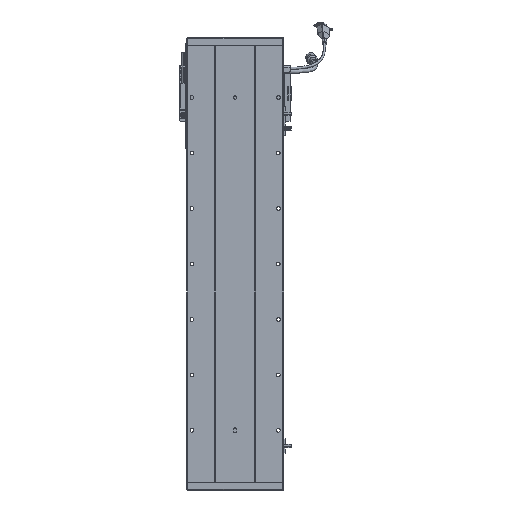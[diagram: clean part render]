
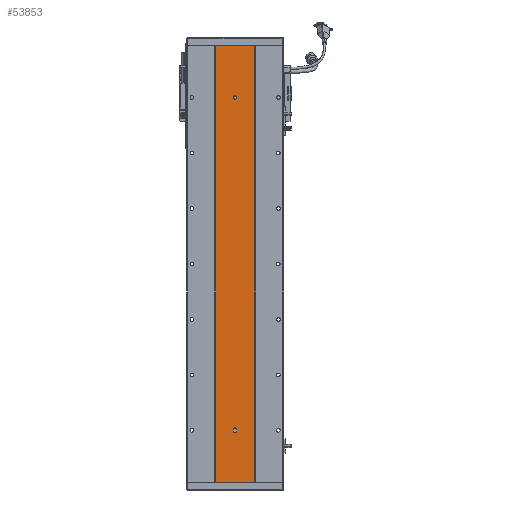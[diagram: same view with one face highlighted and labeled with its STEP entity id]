
A CAD part, front view. The second image highlights one B-rep face of the part: STEP entity #53853.
In plain terms, the highlighted planar face has unit normal (0, -1, 0).
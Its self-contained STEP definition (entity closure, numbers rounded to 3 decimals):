
#621 = CIRCLE ( 'NONE', #70150, 3. ) ;
#1636 = EDGE_CURVE ( 'NONE', #12075, #33227, #8228, .T. ) ;
#2611 = PLANE ( 'NONE',  #49271 ) ;
#3585 = DIRECTION ( 'NONE',  ( 0., 0., -1. ) ) ;
#3679 = CARTESIAN_POINT ( 'NONE',  ( 3244.748, 1415.701, 787. ) ) ;
#4581 = LINE ( 'NONE', #3679, #14912 ) ;
#6071 = EDGE_CURVE ( 'NONE', #12944, #45665, #56638, .T. ) ;
#6522 = AXIS2_PLACEMENT_3D ( 'NONE', #11002, #52563, #28372 ) ;
#7497 = EDGE_CURVE ( 'NONE', #40980, #42764, #54549, .T. ) ;
#7895 = DIRECTION ( 'NONE',  ( 0., 0., -1. ) ) ;
#8228 = CIRCLE ( 'NONE', #42916, 3. ) ;
#8736 = ORIENTED_EDGE ( 'NONE', *, *, #55076, .F. ) ;
#9618 = EDGE_CURVE ( 'NONE', #74258, #40980, #4581, .T. ) ;
#10355 = EDGE_LOOP ( 'NONE', ( #8736, #26741, #26076, #75006, #50370 ) ) ;
#11002 = CARTESIAN_POINT ( 'NONE',  ( 3280.529, 1415.701, 693.5 ) ) ;
#12075 = VERTEX_POINT ( 'NONE', #57866 ) ;
#12944 = VERTEX_POINT ( 'NONE', #50845 ) ;
#13496 = DIRECTION ( 'NONE',  ( 0., 0., 1. ) ) ;
#14912 = VECTOR ( 'NONE', #21796, 1000. ) ;
#14963 = FACE_OUTER_BOUND ( 'NONE', #45242, .T. ) ;
#18926 = VECTOR ( 'NONE', #13496, 1000. ) ;
#19307 = DIRECTION ( 'NONE',  ( 0., -1., 0. ) ) ;
#19538 = VERTEX_POINT ( 'NONE', #72007 ) ;
#19725 = DIRECTION ( 'NONE',  ( 0., 0., -1. ) ) ;
#20377 = AXIS2_PLACEMENT_3D ( 'NONE', #33283, #75515, #3585 ) ;
#20721 = DIRECTION ( 'NONE',  ( 0., 1., 0. ) ) ;
#21796 = DIRECTION ( 'NONE',  ( 0., 0., -1. ) ) ;
#22945 = EDGE_CURVE ( 'NONE', #54370, #42764, #34763, .T. ) ;
#24254 = EDGE_CURVE ( 'NONE', #19538, #12944, #26208, .T. ) ;
#26076 = ORIENTED_EDGE ( 'NONE', *, *, #77498, .F. ) ;
#26208 = CIRCLE ( 'NONE', #20377, 3. ) ;
#26741 = ORIENTED_EDGE ( 'NONE', *, *, #30934, .F. ) ;
#27173 = EDGE_CURVE ( 'NONE', #74258, #54370, #54887, .T. ) ;
#27222 = ORIENTED_EDGE ( 'NONE', *, *, #27173, .F. ) ;
#27765 = CARTESIAN_POINT ( 'NONE',  ( 3277.529, 1415.701, 95. ) ) ;
#28372 = DIRECTION ( 'NONE',  ( 0., 0., -1. ) ) ;
#28504 = CARTESIAN_POINT ( 'NONE',  ( 3277.529, 1415.701, 92. ) ) ;
#29345 = VECTOR ( 'NONE', #48426, 1000. ) ;
#29753 = CARTESIAN_POINT ( 'NONE',  ( 3244.748, 1415.701, 787. ) ) ;
#29947 = FACE_BOUND ( 'NONE', #10355, .T. ) ;
#29978 = EDGE_CURVE ( 'NONE', #33227, #12075, #40766, .T. ) ;
#30124 = VECTOR ( 'NONE', #37100, 1000. ) ;
#30460 = ORIENTED_EDGE ( 'NONE', *, *, #9618, .T. ) ;
#30934 = EDGE_CURVE ( 'NONE', #59693, #73174, #45357, .T. ) ;
#30943 = FACE_BOUND ( 'NONE', #62925, .T. ) ;
#31692 = CARTESIAN_POINT ( 'NONE',  ( 3244.748, 1415.701, 0. ) ) ;
#32228 = CARTESIAN_POINT ( 'NONE',  ( 3316.311, 1415.701, 0. ) ) ;
#32561 = ORIENTED_EDGE ( 'NONE', *, *, #22945, .F. ) ;
#33227 = VERTEX_POINT ( 'NONE', #77252 ) ;
#33250 = VECTOR ( 'NONE', #70943, 1000. ) ;
#33283 = CARTESIAN_POINT ( 'NONE',  ( 3280.529, 1415.701, 92. ) ) ;
#34347 = CARTESIAN_POINT ( 'NONE',  ( 3283.529, 1415.701, 95. ) ) ;
#34763 = LINE ( 'NONE', #37349, #30124 ) ;
#37100 = DIRECTION ( 'NONE',  ( 0., 0., -1. ) ) ;
#37349 = CARTESIAN_POINT ( 'NONE',  ( 3316.311, 1415.701, 787. ) ) ;
#37960 = DIRECTION ( 'NONE',  ( 0., 0., -1. ) ) ;
#38806 = CARTESIAN_POINT ( 'NONE',  ( 3244.748, 1415.701, 787. ) ) ;
#39184 = ORIENTED_EDGE ( 'NONE', *, *, #1636, .F. ) ;
#40766 = CIRCLE ( 'NONE', #6522, 3. ) ;
#40980 = VERTEX_POINT ( 'NONE', #31692 ) ;
#41382 = ORIENTED_EDGE ( 'NONE', *, *, #29978, .F. ) ;
#42764 = VERTEX_POINT ( 'NONE', #32228 ) ;
#42916 = AXIS2_PLACEMENT_3D ( 'NONE', #49707, #49979, #19725 ) ;
#44409 = CARTESIAN_POINT ( 'NONE',  ( 3244.748, 1415.701, 787. ) ) ;
#44997 = CARTESIAN_POINT ( 'NONE',  ( 3244.748, 1415.701, 0. ) ) ;
#45242 = EDGE_LOOP ( 'NONE', ( #59376, #32561, #27222, #30460 ) ) ;
#45357 = LINE ( 'NONE', #72770, #29345 ) ;
#45665 = VERTEX_POINT ( 'NONE', #34347 ) ;
#47930 = CARTESIAN_POINT ( 'NONE',  ( 3283.529, 1415.701, 95. ) ) ;
#48426 = DIRECTION ( 'NONE',  ( 0., 0., -1. ) ) ;
#48599 = CARTESIAN_POINT ( 'NONE',  ( 3316.311, 1415.701, 787. ) ) ;
#49271 = AXIS2_PLACEMENT_3D ( 'NONE', #38806, #20721, #62874 ) ;
#49707 = CARTESIAN_POINT ( 'NONE',  ( 3280.529, 1415.701, 693.5 ) ) ;
#49979 = DIRECTION ( 'NONE',  ( 0., -1., 0. ) ) ;
#50370 = ORIENTED_EDGE ( 'NONE', *, *, #24254, .F. ) ;
#50845 = CARTESIAN_POINT ( 'NONE',  ( 3283.529, 1415.701, 92. ) ) ;
#51250 = CIRCLE ( 'NONE', #77857, 3. ) ;
#52563 = DIRECTION ( 'NONE',  ( 0., -1., 0. ) ) ;
#53853 = ADVANCED_FACE ( 'NONE', ( #29947, #30943, #14963 ), #2611, .F. ) ;
#54370 = VERTEX_POINT ( 'NONE', #48599 ) ;
#54549 = LINE ( 'NONE', #44997, #68831 ) ;
#54887 = LINE ( 'NONE', #29753, #33250 ) ;
#55076 = EDGE_CURVE ( 'NONE', #73174, #19538, #621, .T. ) ;
#56277 = CARTESIAN_POINT ( 'NONE',  ( 3280.529, 1415.701, 95. ) ) ;
#56638 = LINE ( 'NONE', #47930, #18926 ) ;
#57866 = CARTESIAN_POINT ( 'NONE',  ( 3280.529, 1415.701, 690.5 ) ) ;
#59376 = ORIENTED_EDGE ( 'NONE', *, *, #7497, .T. ) ;
#59693 = VERTEX_POINT ( 'NONE', #27765 ) ;
#61985 = CARTESIAN_POINT ( 'NONE',  ( 3280.529, 1415.701, 92. ) ) ;
#62375 = DIRECTION ( 'NONE',  ( 0., -1., 0. ) ) ;
#62874 = DIRECTION ( 'NONE',  ( 0., 0., 1. ) ) ;
#62925 = EDGE_LOOP ( 'NONE', ( #39184, #41382 ) ) ;
#68831 = VECTOR ( 'NONE', #75400, 1000. ) ;
#70150 = AXIS2_PLACEMENT_3D ( 'NONE', #61985, #19307, #37960 ) ;
#70943 = DIRECTION ( 'NONE',  ( 1., 0., 0. ) ) ;
#72007 = CARTESIAN_POINT ( 'NONE',  ( 3280.529, 1415.701, 89. ) ) ;
#72770 = CARTESIAN_POINT ( 'NONE',  ( 3277.529, 1415.701, 95. ) ) ;
#73174 = VERTEX_POINT ( 'NONE', #28504 ) ;
#74258 = VERTEX_POINT ( 'NONE', #44409 ) ;
#75006 = ORIENTED_EDGE ( 'NONE', *, *, #6071, .F. ) ;
#75400 = DIRECTION ( 'NONE',  ( 1., 0., 0. ) ) ;
#75515 = DIRECTION ( 'NONE',  ( 0., -1., 0. ) ) ;
#77252 = CARTESIAN_POINT ( 'NONE',  ( 3280.529, 1415.701, 696.5 ) ) ;
#77498 = EDGE_CURVE ( 'NONE', #45665, #59693, #51250, .T. ) ;
#77857 = AXIS2_PLACEMENT_3D ( 'NONE', #56277, #62375, #7895 ) ;
